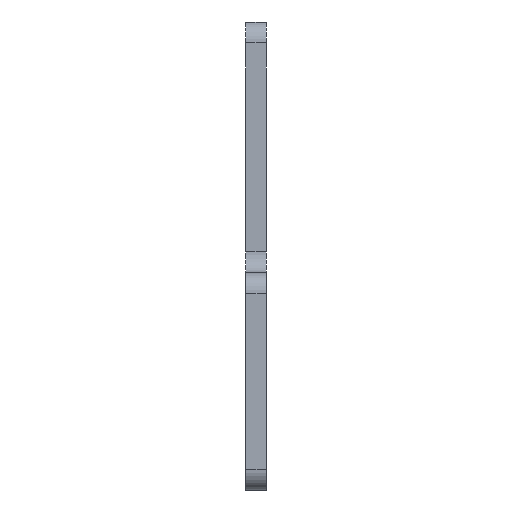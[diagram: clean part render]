
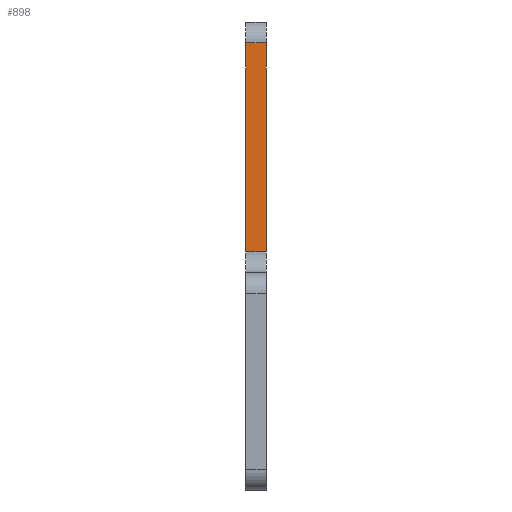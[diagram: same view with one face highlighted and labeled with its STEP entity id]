
A CAD part, left-side view. The second image highlights one B-rep face of the part: STEP entity #898.
In plain terms, the highlighted planar face has unit normal (-1, 0, 0).
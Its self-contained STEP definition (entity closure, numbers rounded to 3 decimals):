
#28 = LINE ( 'NONE', #712, #433 ) ;
#51 = ORIENTED_EDGE ( 'NONE', *, *, #341, .T. ) ;
#52 = AXIS2_PLACEMENT_3D ( 'NONE', #1075, #560, #58 ) ;
#58 = DIRECTION ( 'NONE',  ( 0., 0., -1. ) ) ;
#89 = DIRECTION ( 'NONE',  ( 0., 0., -1. ) ) ;
#102 = LINE ( 'NONE', #892, #759 ) ;
#133 = VERTEX_POINT ( 'NONE', #625 ) ;
#157 = LINE ( 'NONE', #819, #527 ) ;
#174 = CARTESIAN_POINT ( 'NONE',  ( -13., 2.5, 40.5 ) ) ;
#217 = DIRECTION ( 'NONE',  ( 0., -1., 0. ) ) ;
#218 = EDGE_CURVE ( 'NONE', #1018, #557, #28, .T. ) ;
#246 = ORIENTED_EDGE ( 'NONE', *, *, #885, .T. ) ;
#341 = EDGE_CURVE ( 'NONE', #847, #133, #157, .T. ) ;
#391 = PLANE ( 'NONE',  #52 ) ;
#431 = LINE ( 'NONE', #507, #513 ) ;
#433 = VECTOR ( 'NONE', #1047, 1000. ) ;
#455 = DIRECTION ( 'NONE',  ( 0., 0., -1. ) ) ;
#483 = CARTESIAN_POINT ( 'NONE',  ( -13., 0., 40.5 ) ) ;
#507 = CARTESIAN_POINT ( 'NONE',  ( -13., 0., 43. ) ) ;
#513 = VECTOR ( 'NONE', #89, 1000. ) ;
#527 = VECTOR ( 'NONE', #217, 1000. ) ;
#557 = VERTEX_POINT ( 'NONE', #174 ) ;
#560 = DIRECTION ( 'NONE',  ( -1., 0., 0. ) ) ;
#625 = CARTESIAN_POINT ( 'NONE',  ( -13., 0., 15.5 ) ) ;
#654 = ORIENTED_EDGE ( 'NONE', *, *, #670, .F. ) ;
#670 = EDGE_CURVE ( 'NONE', #1018, #133, #431, .T. ) ;
#712 = CARTESIAN_POINT ( 'NONE',  ( -13., 0., 40.5 ) ) ;
#723 = CARTESIAN_POINT ( 'NONE',  ( -13., 2.5, 15.5 ) ) ;
#726 = ORIENTED_EDGE ( 'NONE', *, *, #218, .T. ) ;
#759 = VECTOR ( 'NONE', #455, 1000. ) ;
#819 = CARTESIAN_POINT ( 'NONE',  ( -13., 0., 15.5 ) ) ;
#847 = VERTEX_POINT ( 'NONE', #723 ) ;
#855 = FACE_OUTER_BOUND ( 'NONE', #928, .T. ) ;
#885 = EDGE_CURVE ( 'NONE', #557, #847, #102, .T. ) ;
#892 = CARTESIAN_POINT ( 'NONE',  ( -13., 2.5, 43. ) ) ;
#898 = ADVANCED_FACE ( 'NONE', ( #855 ), #391, .T. ) ;
#928 = EDGE_LOOP ( 'NONE', ( #246, #51, #654, #726 ) ) ;
#1018 = VERTEX_POINT ( 'NONE', #483 ) ;
#1047 = DIRECTION ( 'NONE',  ( 0., 1., 0. ) ) ;
#1075 = CARTESIAN_POINT ( 'NONE',  ( -13., 0., 43. ) ) ;
